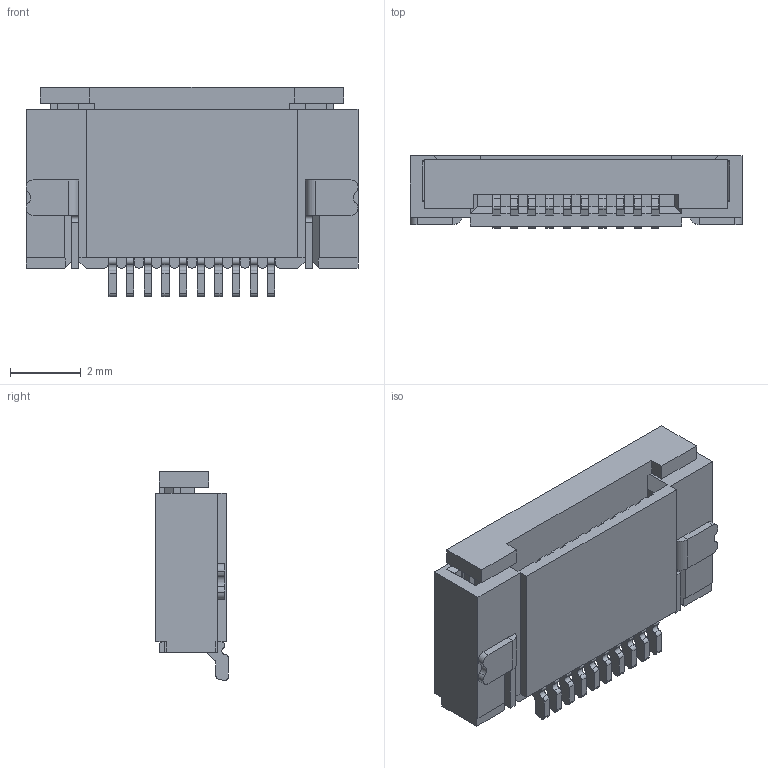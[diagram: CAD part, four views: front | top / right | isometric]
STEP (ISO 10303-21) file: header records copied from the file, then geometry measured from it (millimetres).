
FILE_DESCRIPTION((''),'2;1');
FILE_NAME('GT-F0506SR20-XXXXX01_STP_ASM','2024-02-22T',('Administrator'),(''),'CREO PARAMETRIC BY PTC INC, 2016260','CREO PARAMETRIC BY PTC INC, 2016260','');
FILE_SCHEMA(('CONFIG_CONTROL_DESIGN'));
Length unit declared in the file: millimetre
Products named in the file (7): DUANZI_QIANFAN_PH05_H20_29_1_ST; DUANZI_QIANFAN_PH05_H20_ASM_13__ASM; ZHUTI_QIANFAN_PH05_H20_90_1_STP; GAIZI_QIANFAN_PH05_H20_68_1_STP; PRT0005; PRT0006; GT-F0506SR20-XXXXX01_STP_ASM
Assembly tree (15 placements, depth 3):
  GT-F0506SR20-XXXXX01_STP_ASM
    DUANZI_QIANFAN_PH05_H20_ASM_13__ASM  x10
      DUANZI_QIANFAN_PH05_H20_29_1_ST
    ZHUTI_QIANFAN_PH05_H20_90_1_STP
    GAIZI_QIANFAN_PH05_H20_68_1_STP
    PRT0005
    PRT0006
Bounding box: 9.4 x 2.05 x 5.92 mm (x, y, z)
Volume: 64.6 mm3; surface area: 427.7 mm2
Topology: 14 solids, 14 shells, 1298 faces, 3838 edges, 2532 vertices
Faces by surface type: plane 799, cylinder 425, extrusion 74
Entity records: 28717 total; most frequent: CARTESIAN_POINT 7759, ORIENTED_EDGE 4598, DIRECTION 3931, EDGE_CURVE 2299, VECTOR 1947, LINE 1873, VERTEX_POINT 1506, AXIS2_PLACEMENT_3D 992
